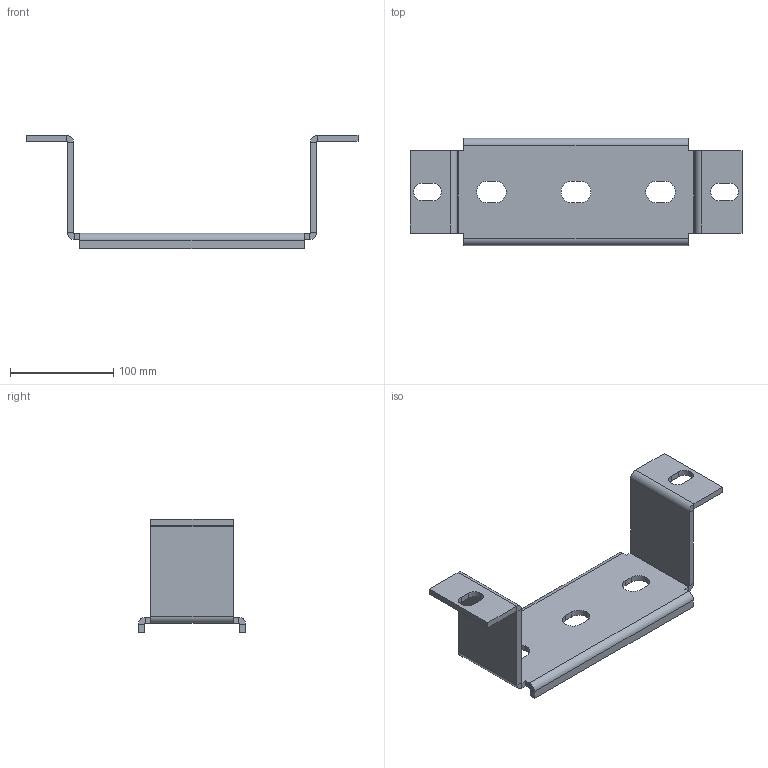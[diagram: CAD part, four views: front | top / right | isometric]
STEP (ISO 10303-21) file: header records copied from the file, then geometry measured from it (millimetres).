
FILE_DESCRIPTION(/* description */ ('Deckenkonsole Nr. 3, 3-fach'),/* implementation_level */ '2;1');
FILE_NAME(/* name */ 'Q:\sge-ma\Produktmanagement-STB\STB\Workspace\TraceParts\Deckenkonsole\010335833.stp',/* time_stamp */ '2018-02-20T14:03:57+01:00',/* author */ ('avschreier'),/* organization */ (''),/* preprocessor_version */ 'ST-DEVELOPER v16.1',/* originating_system */ 'Autodesk Inventor 2016',/* authorisation */ '');
FILE_SCHEMA (('CONFIG_CONTROL_DESIGN'));
Length unit declared in the file: millimetre
Products named in the file (1): 010335833
Bounding box: 322 x 104 x 110 mm (x, y, z)
Volume: 279275.7 mm3; surface area: 102938.9 mm2
Topology: 1 solids, 1 shells, 82 faces, 192 edges, 112 vertices
Faces by surface type: plane 60, cylinder 22
Entity records: 2320 total; most frequent: DIRECTION 402, CARTESIAN_POINT 387, ORIENTED_EDGE 384, EDGE_CURVE 192, LINE 148, VECTOR 148, AXIS2_PLACEMENT_3D 127, VERTEX_POINT 112
